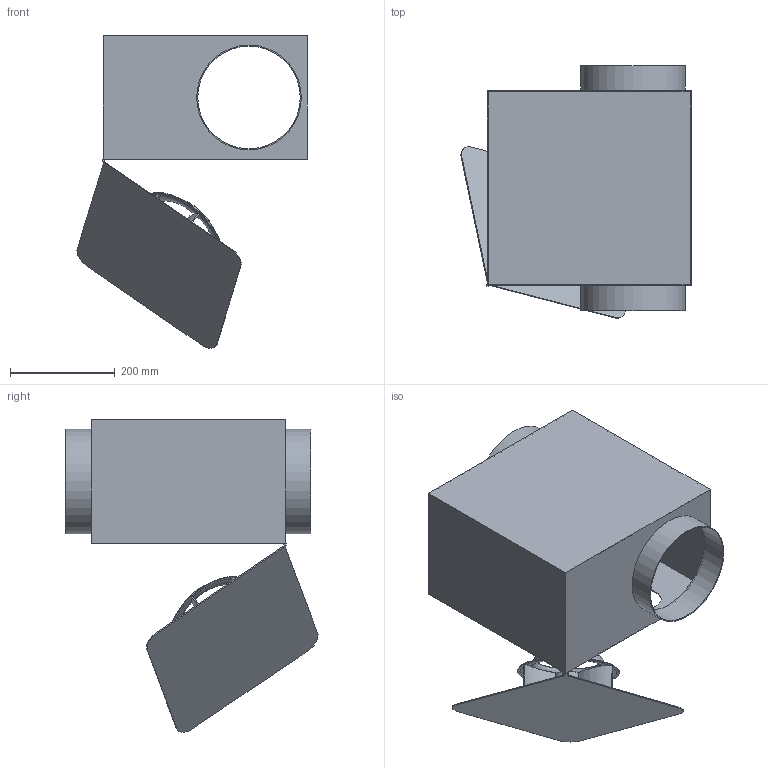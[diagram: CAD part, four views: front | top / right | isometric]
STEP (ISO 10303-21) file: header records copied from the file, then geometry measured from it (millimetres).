
FILE_DESCRIPTION(/* description */ (''),/* implementation_level */ '2;1');
FILE_NAME(/* name */ 'Z:\Output\SVR 200 K-02673-004.stp',/* time_stamp */ '2021-04-16T13:47:42+02:00',/* author */ ('engineering1'),/* organization */ (''),/* preprocessor_version */ 'ST-DEVELOPER v17.2',/* originating_system */ 'Autodesk Inventor 2019',/* authorisation */ '');
FILE_SCHEMA (('AUTOMOTIVE_DESIGN { 1 0 10303 214 3 1 1 }'));
Length unit declared in the file: millimetre
Products named in the file (1): SVR-1
Bounding box: 439.9 x 481.66 x 597.34 mm (x, y, z)
Volume: 1522514.6 mm3; surface area: 1494510.7 mm2
Topology: 2 solids, 2 shells, 118 faces, 302 edges, 182 vertices
Faces by surface type: plane 60, cylinder 37, cone 19, torus 2
Full cylindrical faces by diameter (mm): 195 x2, 196 x2, 200 x2
Entity records: 3782 total; most frequent: CARTESIAN_POINT 879, DIRECTION 612, ORIENTED_EDGE 604, EDGE_CURVE 302, AXIS2_PLACEMENT_3D 239, VERTEX_POINT 182, LINE 134, VECTOR 134
